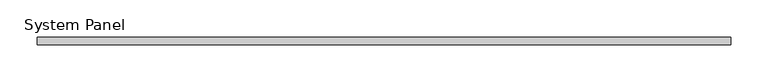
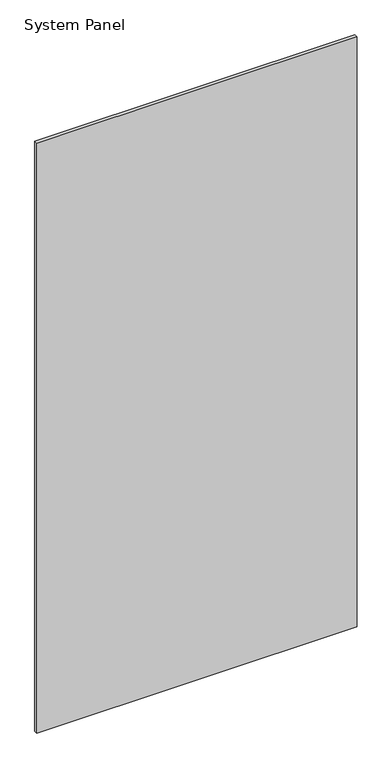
"""IFC4 building model written with IfcOpenShell, lengths in millimetres: plate geometry, System Panel : стекло_смещение_0."""

from ifc_helpers import new_model, si_unit, origin, origin_with_axes, place, context, project, spatial, polyline, outline, extrude, source, transform, mapped, element, save


def system_panel_8694338e(model_context):
    return source(origin(), model_context, "Body", "SweptSolid", [
        extrude(outline(polyline([(462.5, -5.0), (-462.5, -5.0), (-462.5, 5.0), (462.5, 5.0), (462.5, -5.0)])), origin_with_axes(), (0.0, 0.0, 1.0), 1800.0),
    ])


if __name__ == "__main__":
    model = new_model("IFC4")
    model_context = context("Model", 3, world=origin())
    ifc_project = project(units=[si_unit("LENGTHUNIT", "METRE", prefix="MILLI")], contexts=[model_context])
    site = spatial("IfcSite", under=ifc_project)
    building = spatial("IfcBuilding", under=site)
    placement = place(None, origin())
    system_panel_shape = system_panel_8694338e(model_context)
    element("IfcPlate", 1, ObjectType="System Panel : стекло_смещение_0", at=placement, inside=building, context=model_context, shape_type="MappedRepresentation", body=[
        mapped(system_panel_shape, transform((0.0, 0.0, 0.0), x_axis=(1.0, 0.0, 0.0), y_axis=(0.0, 1.0, 0.0), z_axis=(0.0, 0.0, 1.0))),
    ])
    save(model, "model.ifc")
